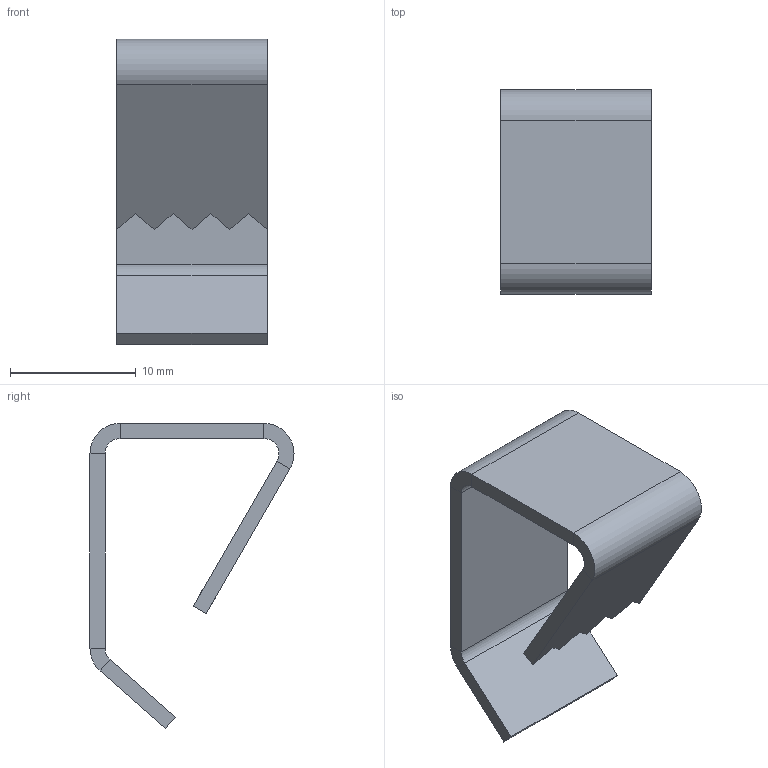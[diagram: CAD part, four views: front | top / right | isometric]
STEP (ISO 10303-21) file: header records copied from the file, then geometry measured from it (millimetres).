
FILE_DESCRIPTION (( 'STEP AP203' ), '1' );
FILE_NAME ('B 0 B Äåðæàòåëü êðûøêè.STEP', '2012-12-05T07:11:38', ( 'Àëåêñàíäð' ), ( 'Ïðîâåíòî' ), 'SwSTEP 2.0', 'SolidWorks 2012', '' );
FILE_SCHEMA (( 'CONFIG_CONTROL_DESIGN' ));
Length unit declared in the file: millimetre
Products named in the file (1): B 0 B Äåðæàòåëü êðûøêè
Bounding box: 12 x 16.24 x 24.3 mm (x, y, z)
Volume: 786.2 mm3; surface area: 1477.9 mm2
Topology: 1 solids, 1 shells, 37 faces, 81 edges, 46 vertices
Faces by surface type: plane 31, cylinder 6
Entity records: 1052 total; most frequent: DIRECTION 169, CARTESIAN_POINT 165, ORIENTED_EDGE 162, EDGE_CURVE 81, VECTOR 69, LINE 69, AXIS2_PLACEMENT_3D 50, VERTEX_POINT 46
